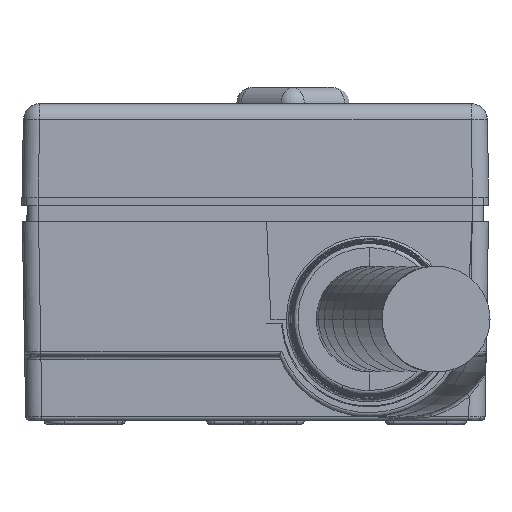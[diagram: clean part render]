
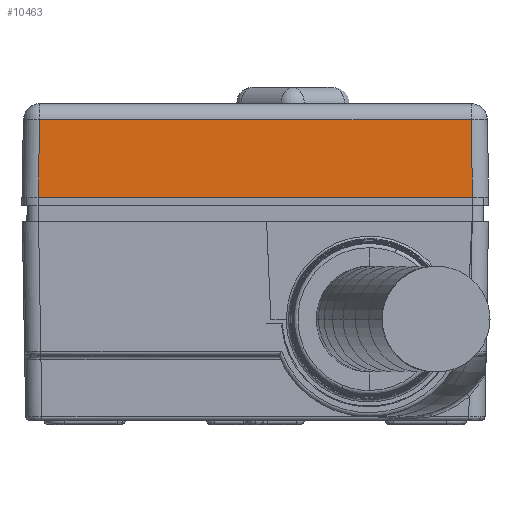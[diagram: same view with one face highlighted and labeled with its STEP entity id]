
A CAD part, left-side view. The second image highlights one B-rep face of the part: STEP entity #10463.
In plain terms, the highlighted planar face has unit normal (-1, 0, 0.018).
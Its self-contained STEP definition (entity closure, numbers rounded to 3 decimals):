
#87 = EDGE_CURVE ( 'NONE', #3734, #21041, #4999, .T. ) ;
#3734 = VERTEX_POINT ( 'NONE', #64296 ) ;
#4999 = LINE ( 'NONE', #46790, #56385 ) ;
#7702 = DIRECTION ( 'NONE',  ( -0.017, 0.017, -1. ) ) ;
#8092 = LINE ( 'NONE', #21891, #40867 ) ;
#10463 = ADVANCED_FACE ( 'NONE', ( #46497 ), #52593, .T. ) ;
#13300 = EDGE_CURVE ( 'NONE', #59487, #23858, #47571, .T. ) ;
#14795 = VECTOR ( 'NONE', #7702, 1000. ) ;
#18467 = EDGE_CURVE ( 'NONE', #21041, #59487, #37381, .T. ) ;
#18636 = DIRECTION ( 'NONE',  ( -1., 0., 0.017 ) ) ;
#21041 = VERTEX_POINT ( 'NONE', #24004 ) ;
#21891 = CARTESIAN_POINT ( 'NONE',  ( -25.5, 0., 0.5 ) ) ;
#23122 = VECTOR ( 'NONE', #66273, 1000. ) ;
#23858 = VERTEX_POINT ( 'NONE', #58677 ) ;
#24004 = CARTESIAN_POINT ( 'NONE',  ( -25.417, -13.267, 5.267 ) ) ;
#26827 = CARTESIAN_POINT ( 'NONE',  ( -25.417, 13.25, 5.267 ) ) ;
#30139 = ORIENTED_EDGE ( 'NONE', *, *, #18467, .T. ) ;
#30982 = CARTESIAN_POINT ( 'NONE',  ( -25.496, 13.346, 0.733 ) ) ;
#35630 = DIRECTION ( 'NONE',  ( 0.017, 0.017, 1. ) ) ;
#36261 = DIRECTION ( 'NONE',  ( 0.017, 0., 1. ) ) ;
#37381 = LINE ( 'NONE', #26827, #23122 ) ;
#39756 = AXIS2_PLACEMENT_3D ( 'NONE', #64225, #18636, #36261 ) ;
#40867 = VECTOR ( 'NONE', #62782, 1000. ) ;
#44164 = EDGE_LOOP ( 'NONE', ( #30139, #50911, #48041, #68999 ) ) ;
#46497 = FACE_OUTER_BOUND ( 'NONE', #44164, .T. ) ;
#46790 = CARTESIAN_POINT ( 'NONE',  ( -25.496, -13.346, 0.733 ) ) ;
#47571 = LINE ( 'NONE', #30982, #14795 ) ;
#48041 = ORIENTED_EDGE ( 'NONE', *, *, #72179, .T. ) ;
#50911 = ORIENTED_EDGE ( 'NONE', *, *, #13300, .T. ) ;
#52593 = PLANE ( 'NONE',  #39756 ) ;
#56385 = VECTOR ( 'NONE', #35630, 1000. ) ;
#58677 = CARTESIAN_POINT ( 'NONE',  ( -25.5, 13.35, 0.5 ) ) ;
#59487 = VERTEX_POINT ( 'NONE', #63121 ) ;
#62782 = DIRECTION ( 'NONE',  ( 0., -1., 0. ) ) ;
#63121 = CARTESIAN_POINT ( 'NONE',  ( -25.417, 13.267, 5.267 ) ) ;
#64225 = CARTESIAN_POINT ( 'NONE',  ( -25.5, 0., 0.5 ) ) ;
#64296 = CARTESIAN_POINT ( 'NONE',  ( -25.5, -13.35, 0.5 ) ) ;
#66273 = DIRECTION ( 'NONE',  ( 0., 1., 0. ) ) ;
#68999 = ORIENTED_EDGE ( 'NONE', *, *, #87, .T. ) ;
#72179 = EDGE_CURVE ( 'NONE', #23858, #3734, #8092, .T. ) ;
